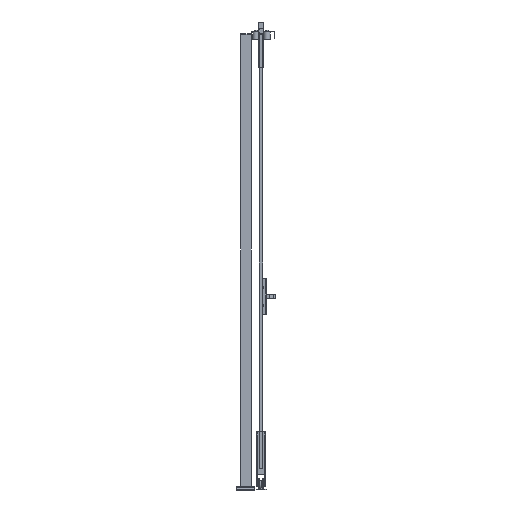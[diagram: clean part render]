
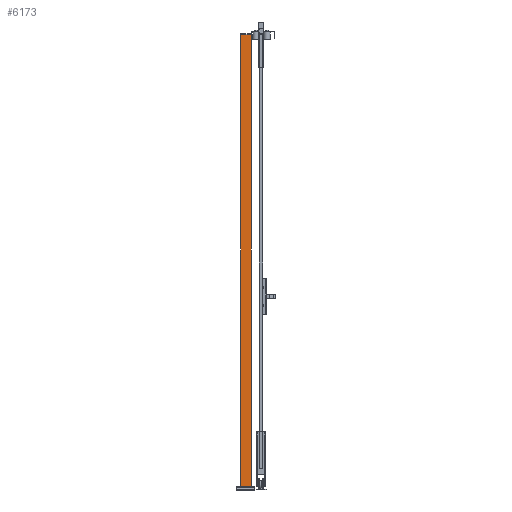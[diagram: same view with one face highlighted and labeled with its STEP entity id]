
A CAD part, left-side view. The second image highlights one B-rep face of the part: STEP entity #6173.
In plain terms, the highlighted planar face has unit normal (-1, 0, 0) as drawn and (0, 1, 0) by its records, which use the part's own axes.
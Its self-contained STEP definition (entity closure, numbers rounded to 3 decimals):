
#655=FACE_OUTER_BOUND('',#1095,.T.);
#1095=EDGE_LOOP('',(#3785,#3786,#3787,#3788));
#1596=VERTEX_POINT('',#12235);
#1597=VERTEX_POINT('',#12237);
#1599=VERTEX_POINT('',#12243);
#1602=VERTEX_POINT('',#12248);
#2496=EDGE_CURVE('',#1596,#1597,#7034,.T.);
#2502=EDGE_CURVE('',#1602,#1599,#7040,.T.);
#2505=EDGE_CURVE('',#1597,#1602,#7043,.T.);
#2506=EDGE_CURVE('',#1596,#1599,#7044,.T.);
#3785=ORIENTED_EDGE('',*,*,#2506,.T.);
#3786=ORIENTED_EDGE('',*,*,#2502,.F.);
#3787=ORIENTED_EDGE('',*,*,#2505,.F.);
#3788=ORIENTED_EDGE('',*,*,#2496,.F.);
#5801=PLANE('',#8886);
#6173=ADVANCED_FACE('',(#655),#5801,.F.);
#7034=LINE('',#12238,#8006);
#7040=LINE('',#12250,#8012);
#7043=LINE('',#12255,#8015);
#7044=LINE('',#12257,#8016);
#8006=VECTOR('',#9753,1.);
#8012=VECTOR('',#9761,1.);
#8015=VECTOR('',#9768,1.);
#8016=VECTOR('',#9771,1.);
#8886=AXIS2_PLACEMENT_3D('',#12256,#9769,#9770);
#9753=DIRECTION('',(-1.,0.,0.));
#9761=DIRECTION('',(1.,0.,0.));
#9768=DIRECTION('',(0.,0.,-1.));
#9769=DIRECTION('center_axis',(0.,-1.,0.));
#9770=DIRECTION('ref_axis',(0.,0.,-1.));
#9771=DIRECTION('',(0.,0.,-1.));
#12235=CARTESIAN_POINT('',(30.,30.,2520.));
#12237=CARTESIAN_POINT('',(-30.,30.,2520.));
#12238=CARTESIAN_POINT('',(0.,30.,2520.));
#12243=CARTESIAN_POINT('',(30.,30.,20.));
#12248=CARTESIAN_POINT('',(-30.,30.,20.));
#12250=CARTESIAN_POINT('',(0.,30.,20.));
#12255=CARTESIAN_POINT('',(-30.,30.,1270.));
#12256=CARTESIAN_POINT('Origin',(0.,30.,
1270.));
#12257=CARTESIAN_POINT('',(30.,30.,1270.));
